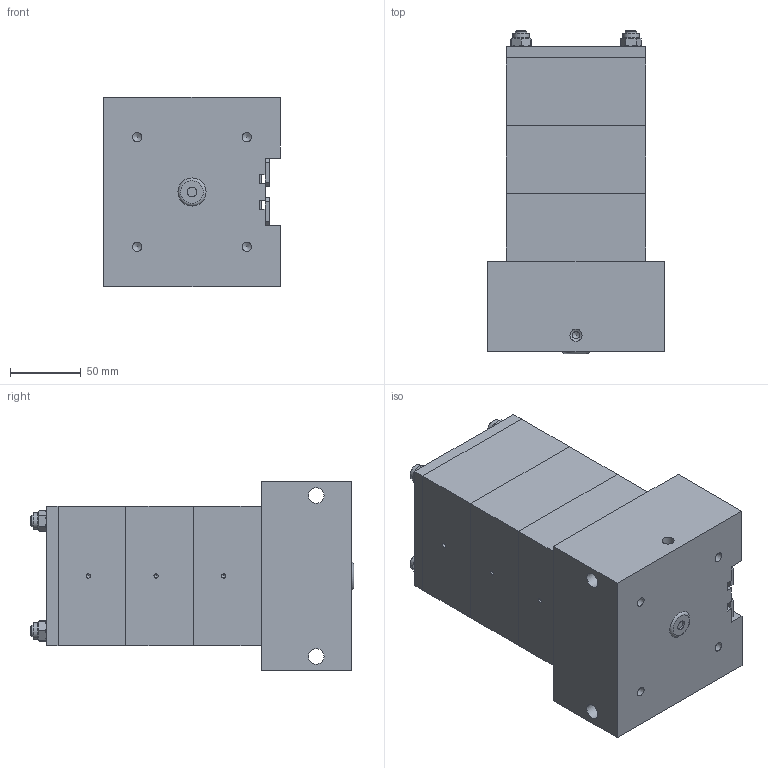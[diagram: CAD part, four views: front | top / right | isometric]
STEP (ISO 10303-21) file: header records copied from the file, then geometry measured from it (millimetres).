
FILE_DESCRIPTION((''),'2;1');
FILE_NAME('C:\VaultWork\Zeichnungen\Maßblätter\Multizylinder\M 90\M90-30\M01800-3-1 Maßblatt Multizylinder M90-4-30 berührungslose Abfrage.stp','2013-08-27T13:27:06',('Sergeew'),(''),'Autodesk Inventor 2012','Autodesk Inventor 2012','');
FILE_SCHEMA(('AUTOMOTIVE_DESIGN { 1 0 10303 214 1 1 1 1 }'));
Length unit declared in the file: millimetre
Products named in the file (1): M01800-3-1 Maßblatt Multizylinder M90-4-30 berührungslose Abfrage
Bounding box: 125 x 229.11 x 134 mm (x, y, z)
Volume: 2461109.1 mm3; surface area: 163550.7 mm2
Topology: 1 solids, 5 shells, 206 faces, 484 edges, 308 vertices
Faces by surface type: plane 126, cylinder 50, cone 29, torus 1
Full cylindrical faces by diameter (mm): 3 x3, 4.3 x4, 5 x1, 6.647 x5, 8 x8, 8.566 x2, 9 x4, 10 x12, 11 x2, 11.6 x4, 15 x1
Entity records: 5274 total; most frequent: CARTESIAN_POINT 959, DIRECTION 862, ORIENTED_EDGE 756, EDGE_CURVE 378, AXIS2_PLACEMENT_3D 325, EDGE_LOOP 314, VERTEX_POINT 278, VECTOR 212
